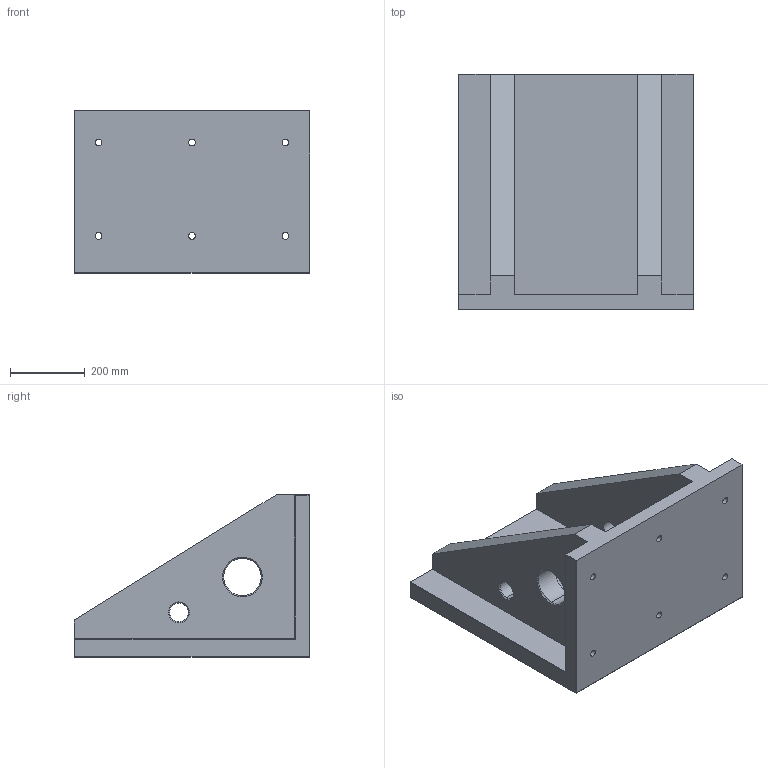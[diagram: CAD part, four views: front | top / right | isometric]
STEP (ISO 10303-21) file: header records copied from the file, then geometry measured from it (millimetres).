
FILE_DESCRIPTION((''),'2;1');
FILE_NAME('FG_WH_ANGPL_ANPLNNP003','2026-05-22T11:31:36',('Admin'),(''),'CREO PARAMETRIC BY PTC INC, 2025010','CREO PARAMETRIC BY PTC INC, 2025010','');
FILE_SCHEMA(('CONFIG_CONTROL_DESIGN'));
Length unit declared in the file: millimetre
Products named in the file (1): FG_WH_ANGPL_ANPLNNP003
Bounding box: 630 x 630 x 435 mm (x, y, z)
Volume: 45961854.7 mm3; surface area: 1978194.2 mm2
Topology: 1 solids, 1 shells, 77 faces, 193 edges, 124 vertices
Faces by surface type: plane 37, cylinder 32, cone 8
Entity records: 2385 total; most frequent: DIRECTION 419, CARTESIAN_POINT 394, ORIENTED_EDGE 386, EDGE_CURVE 193, AXIS2_PLACEMENT_3D 149, VERTEX_POINT 124, VECTOR 121, LINE 121
